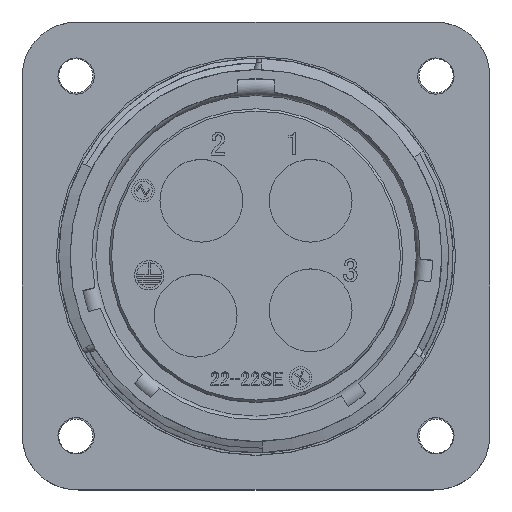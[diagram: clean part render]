
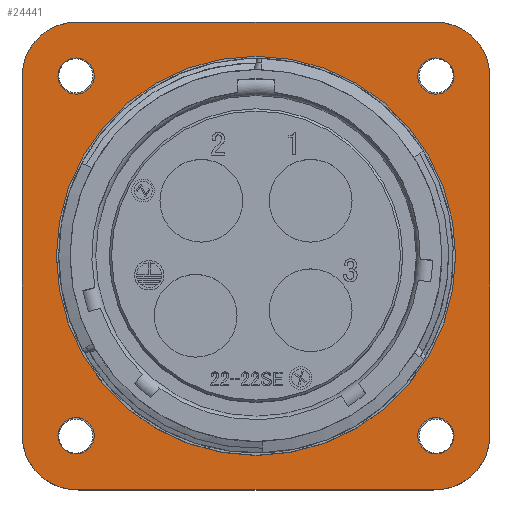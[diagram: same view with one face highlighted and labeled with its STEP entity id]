
A CAD part, top view. The second image highlights one B-rep face of the part: STEP entity #24441.
In plain terms, the highlighted planar face has unit normal (0, 0, 1).
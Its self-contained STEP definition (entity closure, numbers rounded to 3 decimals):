
#655 = EDGE_CURVE ( 'NONE', #1788, #1788, #13066, .T. ) ;
#1427 = VERTEX_POINT ( 'NONE', #20142 ) ;
#1446 = EDGE_CURVE ( 'NONE', #12134, #19385, #28032, .T. ) ;
#1470 = CARTESIAN_POINT ( 'NONE',  ( 20.635, 15.835, -19.9 ) ) ;
#1490 = DIRECTION ( 'NONE',  ( 1., 0., 0. ) ) ;
#1689 = DIRECTION ( 'NONE',  ( 1., 0., 0. ) ) ;
#1788 = VERTEX_POINT ( 'NONE', #2189 ) ;
#2176 = DIRECTION ( 'NONE',  ( 1., 0., 0. ) ) ;
#2189 = CARTESIAN_POINT ( 'NONE',  ( 14.275, 15.875, -19.9 ) ) ;
#2471 = CARTESIAN_POINT ( 'NONE',  ( -17.61, 0., -19.9 ) ) ;
#2633 = FACE_BOUND ( 'NONE', #25529, .T. ) ;
#3157 = AXIS2_PLACEMENT_3D ( 'NONE', #11004, #22080, #4235 ) ;
#4009 = DIRECTION ( 'NONE',  ( 0., 0., -1. ) ) ;
#4071 = CIRCLE ( 'NONE', #5004, 4.8 ) ;
#4235 = DIRECTION ( 'NONE',  ( 1., 0., 0. ) ) ;
#4356 = ORIENTED_EDGE ( 'NONE', *, *, #11937, .F. ) ;
#4436 = FACE_BOUND ( 'NONE', #20927, .T. ) ;
#4450 = DIRECTION ( 'NONE',  ( 1., 0., 0. ) ) ;
#4623 = CARTESIAN_POINT ( 'NONE',  ( -15.835, -20.635, -19.9 ) ) ;
#5004 = AXIS2_PLACEMENT_3D ( 'NONE', #15165, #28619, #1490 ) ;
#5026 = CIRCLE ( 'NONE', #12571, 1.6 ) ;
#5614 = CARTESIAN_POINT ( 'NONE',  ( -20.635, -15.835, -19.9 ) ) ;
#5791 = DIRECTION ( 'NONE',  ( 0., 0., -1. ) ) ;
#5888 = VERTEX_POINT ( 'NONE', #8288 ) ;
#5948 = EDGE_CURVE ( 'NONE', #14068, #8928, #14015, .T. ) ;
#6242 = DIRECTION ( 'NONE',  ( 0., 0., -1. ) ) ;
#6272 = AXIS2_PLACEMENT_3D ( 'NONE', #8002, #28438, #14685 ) ;
#6298 = ORIENTED_EDGE ( 'NONE', *, *, #15300, .T. ) ;
#6426 = EDGE_CURVE ( 'NONE', #20626, #5888, #18568, .T. ) ;
#6622 = CARTESIAN_POINT ( 'NONE',  ( 15.835, -20.635, -19.9 ) ) ;
#6646 = ORIENTED_EDGE ( 'NONE', *, *, #5948, .F. ) ;
#6822 = CARTESIAN_POINT ( 'NONE',  ( -15.875, 15.875, -19.9 ) ) ;
#7108 = EDGE_CURVE ( 'NONE', #22570, #14068, #15392, .T. ) ;
#7415 = DIRECTION ( 'NONE',  ( 0., 1., 0. ) ) ;
#7709 = DIRECTION ( 'NONE',  ( 0., 0., -1. ) ) ;
#8002 = CARTESIAN_POINT ( 'NONE',  ( 0., 0., -19.9 ) ) ;
#8175 = VECTOR ( 'NONE', #7415, 1000. ) ;
#8185 = CIRCLE ( 'NONE', #3157, 4.8 ) ;
#8288 = CARTESIAN_POINT ( 'NONE',  ( 20.635, -15.835, -19.9 ) ) ;
#8367 = LINE ( 'NONE', #6622, #21574 ) ;
#8928 = VERTEX_POINT ( 'NONE', #20844 ) ;
#8990 = ORIENTED_EDGE ( 'NONE', *, *, #6426, .F. ) ;
#10362 = VERTEX_POINT ( 'NONE', #20523 ) ;
#10970 = CARTESIAN_POINT ( 'NONE',  ( -15.875, -15.875, -19.9 ) ) ;
#11004 = CARTESIAN_POINT ( 'NONE',  ( 15.835, -15.835, -19.9 ) ) ;
#11457 = DIRECTION ( 'NONE',  ( 0., 0., -1. ) ) ;
#11892 = CARTESIAN_POINT ( 'NONE',  ( -20.635, 15.835, -19.9 ) ) ;
#11937 = EDGE_CURVE ( 'NONE', #5888, #23748, #8185, .T. ) ;
#12134 = VERTEX_POINT ( 'NONE', #4623 ) ;
#12559 = VECTOR ( 'NONE', #20185, 1000. ) ;
#12571 = AXIS2_PLACEMENT_3D ( 'NONE', #10970, #4009, #19736 ) ;
#12603 = EDGE_CURVE ( 'NONE', #1427, #1427, #29190, .T. ) ;
#12853 = VERTEX_POINT ( 'NONE', #2471 ) ;
#12972 = CARTESIAN_POINT ( 'NONE',  ( 15.875, -15.875, -19.9 ) ) ;
#13066 = CIRCLE ( 'NONE', #22095, 1.6 ) ;
#14015 = LINE ( 'NONE', #17622, #22575 ) ;
#14068 = VERTEX_POINT ( 'NONE', #27466 ) ;
#14074 = EDGE_LOOP ( 'NONE', ( #6298 ) ) ;
#14079 = FACE_BOUND ( 'NONE', #14074, .T. ) ;
#14442 = AXIS2_PLACEMENT_3D ( 'NONE', #6822, #15528, #4450 ) ;
#14685 = DIRECTION ( 'NONE',  ( -1., 0., 0. ) ) ;
#15165 = CARTESIAN_POINT ( 'NONE',  ( 15.835, 15.835, -19.9 ) ) ;
#15300 = EDGE_CURVE ( 'NONE', #27830, #27830, #26291, .T. ) ;
#15392 = CIRCLE ( 'NONE', #17596, 4.8 ) ;
#15474 = CARTESIAN_POINT ( 'NONE',  ( -20.635, 15.835, -19.9 ) ) ;
#15528 = DIRECTION ( 'NONE',  ( 0., 0., -1. ) ) ;
#15614 = DIRECTION ( 'NONE',  ( 0., 0., -1. ) ) ;
#16227 = FACE_BOUND ( 'NONE', #26903, .T. ) ;
#16377 = LINE ( 'NONE', #11892, #8175 ) ;
#16872 = EDGE_CURVE ( 'NONE', #10362, #10362, #5026, .T. ) ;
#16924 = DIRECTION ( 'NONE',  ( -1., 0., 0. ) ) ;
#17438 = DIRECTION ( 'NONE',  ( 1., 0., 0. ) ) ;
#17596 = AXIS2_PLACEMENT_3D ( 'NONE', #19984, #6242, #16924 ) ;
#17622 = CARTESIAN_POINT ( 'NONE',  ( 15.835, 20.635, -19.9 ) ) ;
#17626 = EDGE_LOOP ( 'NONE', ( #27546 ) ) ;
#17765 = DIRECTION ( 'NONE',  ( -1., 0., 0. ) ) ;
#17781 = CARTESIAN_POINT ( 'NONE',  ( 20.635, 15.835, -19.9 ) ) ;
#17951 = FACE_OUTER_BOUND ( 'NONE', #19752, .T. ) ;
#18537 = ORIENTED_EDGE ( 'NONE', *, *, #16872, .T. ) ;
#18568 = LINE ( 'NONE', #17781, #12559 ) ;
#18740 = ORIENTED_EDGE ( 'NONE', *, *, #25551, .F. ) ;
#18929 = DIRECTION ( 'NONE',  ( -1., 0., 0. ) ) ;
#19090 = ORIENTED_EDGE ( 'NONE', *, *, #12603, .T. ) ;
#19252 = EDGE_CURVE ( 'NONE', #12853, #12853, #25670, .T. ) ;
#19385 = VERTEX_POINT ( 'NONE', #5614 ) ;
#19736 = DIRECTION ( 'NONE',  ( -1., 0., 0. ) ) ;
#19752 = EDGE_LOOP ( 'NONE', ( #22933, #26469, #20039, #25023, #4356, #8990, #18740, #6646 ) ) ;
#19984 = CARTESIAN_POINT ( 'NONE',  ( -15.835, 15.835, -19.9 ) ) ;
#20039 = ORIENTED_EDGE ( 'NONE', *, *, #1446, .F. ) ;
#20142 = CARTESIAN_POINT ( 'NONE',  ( -14.275, 15.875, -19.9 ) ) ;
#20146 = EDGE_CURVE ( 'NONE', #19385, #22570, #16377, .T. ) ;
#20185 = DIRECTION ( 'NONE',  ( 0., -1., 0. ) ) ;
#20444 = FACE_BOUND ( 'NONE', #17626, .T. ) ;
#20523 = CARTESIAN_POINT ( 'NONE',  ( -17.475, -15.875, -19.9 ) ) ;
#20626 = VERTEX_POINT ( 'NONE', #1470 ) ;
#20844 = CARTESIAN_POINT ( 'NONE',  ( 15.835, 20.635, -19.9 ) ) ;
#20927 = EDGE_LOOP ( 'NONE', ( #18537 ) ) ;
#21574 = VECTOR ( 'NONE', #17765, 1000. ) ;
#21991 = AXIS2_PLACEMENT_3D ( 'NONE', #29246, #15614, #24949 ) ;
#22080 = DIRECTION ( 'NONE',  ( 0., 0., -1. ) ) ;
#22095 = AXIS2_PLACEMENT_3D ( 'NONE', #28041, #7709, #18929 ) ;
#22570 = VERTEX_POINT ( 'NONE', #15474 ) ;
#22575 = VECTOR ( 'NONE', #17438, 1000. ) ;
#22745 = CARTESIAN_POINT ( 'NONE',  ( 15.835, -20.635, -19.9 ) ) ;
#22857 = CARTESIAN_POINT ( 'NONE',  ( 17.475, -15.875, -19.9 ) ) ;
#22933 = ORIENTED_EDGE ( 'NONE', *, *, #7108, .F. ) ;
#23748 = VERTEX_POINT ( 'NONE', #22745 ) ;
#23880 = AXIS2_PLACEMENT_3D ( 'NONE', #25097, #11457, #2176 ) ;
#24398 = AXIS2_PLACEMENT_3D ( 'NONE', #12972, #5791, #1689 ) ;
#24441 = ADVANCED_FACE ( 'NONE', ( #17951, #14079, #2633, #20444, #4436, #16227 ), #29150, .F. ) ;
#24466 = EDGE_CURVE ( 'NONE', #23748, #12134, #8367, .T. ) ;
#24949 = DIRECTION ( 'NONE',  ( 0., -1., 0. ) ) ;
#25023 = ORIENTED_EDGE ( 'NONE', *, *, #24466, .F. ) ;
#25097 = CARTESIAN_POINT ( 'NONE',  ( -15.835, -15.835, -19.9 ) ) ;
#25529 = EDGE_LOOP ( 'NONE', ( #19090 ) ) ;
#25551 = EDGE_CURVE ( 'NONE', #8928, #20626, #4071, .T. ) ;
#25670 = CIRCLE ( 'NONE', #6272, 17.61 ) ;
#26291 = CIRCLE ( 'NONE', #24398, 1.6 ) ;
#26469 = ORIENTED_EDGE ( 'NONE', *, *, #20146, .F. ) ;
#26903 = EDGE_LOOP ( 'NONE', ( #27054 ) ) ;
#27054 = ORIENTED_EDGE ( 'NONE', *, *, #19252, .T. ) ;
#27466 = CARTESIAN_POINT ( 'NONE',  ( -15.835, 20.635, -19.9 ) ) ;
#27546 = ORIENTED_EDGE ( 'NONE', *, *, #655, .T. ) ;
#27830 = VERTEX_POINT ( 'NONE', #22857 ) ;
#28032 = CIRCLE ( 'NONE', #23880, 4.8 ) ;
#28041 = CARTESIAN_POINT ( 'NONE',  ( 15.875, 15.875, -19.9 ) ) ;
#28438 = DIRECTION ( 'NONE',  ( 0., 0., -1. ) ) ;
#28619 = DIRECTION ( 'NONE',  ( 0., 0., -1. ) ) ;
#29150 = PLANE ( 'NONE',  #21991 ) ;
#29190 = CIRCLE ( 'NONE', #14442, 1.6 ) ;
#29246 = CARTESIAN_POINT ( 'NONE',  ( -15.835, 15.835, -19.9 ) ) ;
